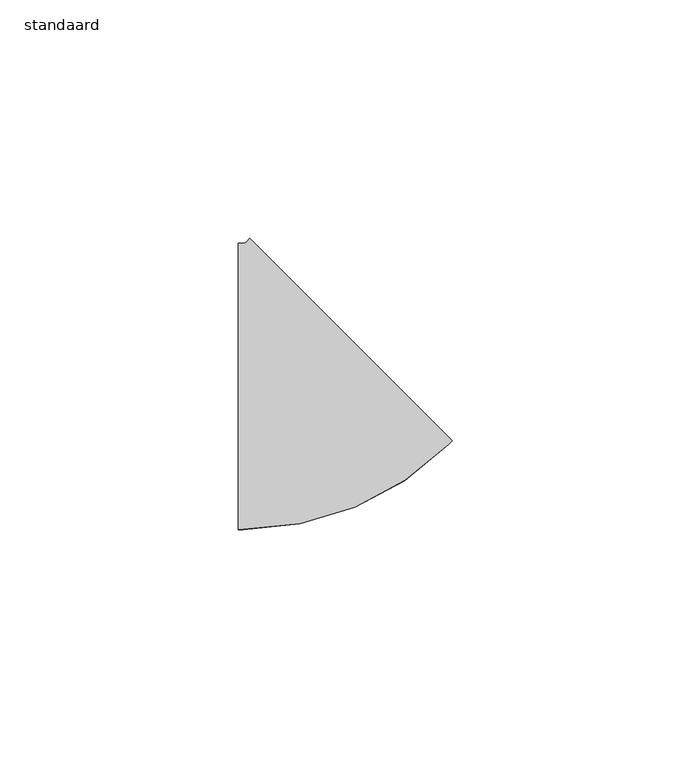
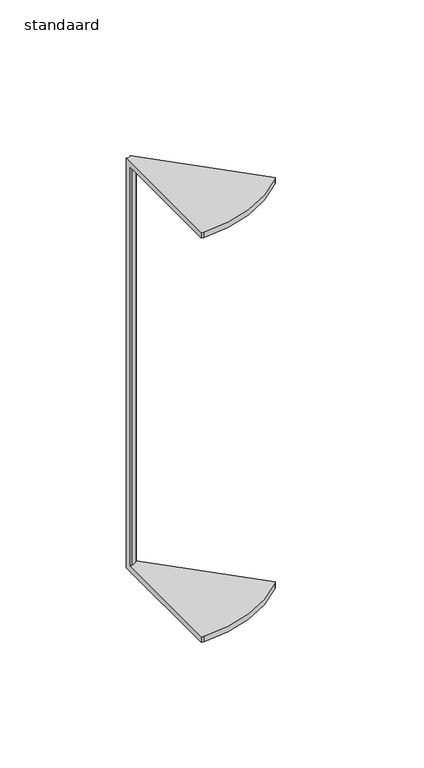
"""IFC4 building model written with IfcOpenShell, lengths in millimetres: cable carrier fitting geometry, AI_Raccord cdc_Coude desencdant : standaard."""

from ifc_helpers import new_model, si_unit, frame, origin, place, context, project, spatial, polyline, circle_curve, source, transform, mapped, element, save
from ifc_brep_helpers import plane_surface, cylinder_surface, revolved_surface, advanced_brep


def standaard_3ccb1d7a(model_context):
    return source(origin(), model_context, "Body", "AdvancedBrep", [
        advanced_brep(
        [(-13.8406204, -30.0, 100.0), (-13.8406204, 30.0, 100.0), (-13.8406204, 30.0, -100.0), (-13.8406204, -30.0, -100.0), (-13.8406204, -30.0, -97.46), (-13.8406204, 27.46, -97.46), (-13.8406204, 27.46, 97.46), (-13.8406204, -30.0, 97.46), (31.0, -11.4264069, 100.0), (31.0, -11.4264069, 97.46), (-9.6303557, 29.2039488, 97.46), (-9.6303557, 29.2039488, -97.46), (31.0, -11.4264069, -97.46), (31.0, -11.4264069, -100.0), (-11.4264069, 31.0, -100.0), (-11.4264069, 31.0, 100.0), (-12.8406204, -30.0, 100.0), (30.2928932, -12.1335137, 100.0), (-12.1335137, 30.2928932, 100.0), (-12.8406204, 30.0, 100.0), (-12.8406204, 30.0, -100.0), (-12.1335137, 30.2928932, -100.0), (30.2928932, -12.1335137, -100.0), (-12.8406204, -30.0, -100.0), (-12.8406204, -30.0, -97.46), (30.2928932, -12.1335137, -97.46), (-10.3374624, 28.496842, -97.46), (-12.8406204, 27.46, -97.46), (-12.8406204, 27.46, 97.46), (-10.3374624, 28.496842, 97.46), (30.2928932, -12.1335137, 97.46), (-12.8406204, -30.0, 97.46)],
        [
            (0, 1),
            (1, 2),
            (2, 3),
            (3, 4),
            (4, 5),
            (5, 6),
            (6, 7),
            (7, 0),
            (8, 9),
            (9, 10),
            (10, 11),
            (11, 12),
            (12, 13),
            (13, 14),
            (14, 15),
            (15, 8),
            (0, 16),
            (16, 17, circle_curve(frame((-12.8406204, 31.0, 100.0), z_axis=(0.0, 0.0, 1.0), x_axis=(0.0, -1.0, 0.0)), 61.0)),
            (17, 8),
            (15, 18),
            (18, 19, circle_curve(frame((-12.8406204, 31.0, 100.0), z_axis=(0.0, 0.0, -1.0), x_axis=(0.0, -1.0, 0.0)), 1.0)),
            (19, 1),
            (19, 20),
            (20, 2),
            (20, 21, circle_curve(frame((-12.8406204, 31.0, -100.0), z_axis=(0.0, 0.0, 1.0), x_axis=(0.0, -1.0, 0.0)), 1.0)),
            (21, 14),
            (13, 22),
            (22, 23, circle_curve(frame((-12.8406204, 31.0, -100.0), z_axis=(0.0, 0.0, -1.0), x_axis=(0.0, -1.0, 0.0)), 61.0)),
            (23, 3),
            (23, 24),
            (24, 4),
            (24, 25, circle_curve(frame((-12.8406204, 31.0, -97.46), z_axis=(0.0, 0.0, 1.0), x_axis=(0.0, -1.0, 0.0)), 61.0)),
            (25, 12),
            (11, 26),
            (26, 27, circle_curve(frame((-12.8406204, 31.0, -97.46), z_axis=(0.0, 0.0, -1.0), x_axis=(0.0, -1.0, 0.0)), 3.54)),
            (27, 5),
            (27, 28),
            (28, 6),
            (28, 29, circle_curve(frame((-12.8406204, 31.0, 97.46), z_axis=(0.0, 0.0, 1.0), x_axis=(0.0, -1.0, 0.0)), 3.54)),
            (29, 10),
            (9, 30),
            (30, 31, circle_curve(frame((-12.8406204, 31.0, 97.46), z_axis=(0.0, 0.0, -1.0), x_axis=(0.0, -1.0, 0.0)), 61.0)),
            (31, 7),
            (31, 16),
            (18, 21),
            (22, 25),
            (26, 29),
            (30, 17),
        ],
        [
            plane_surface(frame((-13.8406204, 0.0, 0.0), z_axis=(-1.0, -4.915201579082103e-12, 0.0), x_axis=(0.0, 0.0, 1.0))),
            plane_surface(frame((9.7867966, 9.7867966, 0.0), z_axis=(0.7071067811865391, 0.707106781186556, 0.0), x_axis=(0.0, 0.0, 1.0))),
            plane_surface(frame((-13.8406204, -30.0, 100.0), z_axis=(0.0, 0.0, 1.0), x_axis=(1.0, 4.9067416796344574e-12, 0.0))),
            plane_surface(frame((-13.8406204, 30.0, 100.0), z_axis=(-4.915201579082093e-12, 1.0, 0.0), x_axis=(1.0, 4.915201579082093e-12, 0.0))),
            plane_surface(frame((-13.8406204, 30.0, -100.0), z_axis=(0.0, 0.0, -1.0), x_axis=(1.0, 4.915201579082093e-12, 0.0))),
            plane_surface(frame((-13.8406204, -30.0, -100.0), z_axis=(4.9067416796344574e-12, -1.0, 0.0), x_axis=(1.0, 4.9067416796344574e-12, 0.0))),
            plane_surface(frame((-13.8406204, -30.0, -97.46), z_axis=(0.0, 0.0, 1.0), x_axis=(1.0, 4.9067416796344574e-12, 0.0))),
            plane_surface(frame((-13.8406204, 27.46, -97.46), z_axis=(4.915201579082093e-12, -1.0, 0.0), x_axis=(1.0, 4.915201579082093e-12, 0.0))),
            plane_surface(frame((-13.8406204, 27.46, 97.46), z_axis=(0.0, 0.0, -1.0), x_axis=(1.0, 4.915201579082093e-12, 0.0))),
            plane_surface(frame((-13.8406204, -30.0, 97.46), z_axis=(4.9067416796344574e-12, -1.0, 0.0), x_axis=(1.0, 4.9067416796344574e-12, 0.0))),
            revolved_surface(polyline([(-12.8406204, 30.0, 100.0), (-12.8406204, 30.0, -100.0)]), (-12.8406204, 31.0, 0.0), (0.0, 0.0, 1.0)),
            cylinder_surface(frame((-12.8406204, 31.0, 0.0), z_axis=(0.0, 0.0, 1.0), x_axis=(0.0, -1.0, 0.0)), 61.0),
            cylinder_surface(frame((-12.8406204, 31.0, 0.0), z_axis=(0.0, 0.0, 1.0), x_axis=(0.0, -1.0, 0.0)), 3.54),
            plane_surface(frame((-12.1335137, 30.2928932, 100.0), z_axis=(-0.7071067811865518, 0.7071067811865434, 0.0), x_axis=(0.7071067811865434, 0.7071067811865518, 0.0))),
            plane_surface(frame((30.2928932, -12.1335137, -100.0), z_axis=(0.7071067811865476, -0.7071067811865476, 0.0), x_axis=(0.7071067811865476, 0.7071067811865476, 0.0))),
            plane_surface(frame((-10.3374624, 28.496842, -97.46), z_axis=(0.7071067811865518, -0.7071067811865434, 0.0), x_axis=(0.7071067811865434, 0.7071067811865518, 0.0))),
            plane_surface(frame((30.2928932, -12.1335137, 97.46), z_axis=(0.7071067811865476, -0.7071067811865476, 0.0), x_axis=(0.7071067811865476, 0.7071067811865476, 0.0))),
        ],
        [
            (0, [[1, 2, 3, 4, 5, 6, 7, 8]]),
            (1, [[9, 10, 11, 12, 13, 14, 15, 16]]),
            (2, [[-1, 17, 18, 19, -16, 20, 21, 22]]),
            (3, [[-2, -22, 23, 24]]),
            (4, [[-3, -24, 25, 26, -14, 27, 28, 29]]),
            (5, [[-4, -29, 30, 31]]),
            (6, [[-5, -31, 32, 33, -12, 34, 35, 36]]),
            (7, [[-6, -36, 37, 38]]),
            (8, [[-7, -38, 39, 40, -10, 41, 42, 43]]),
            (9, [[-8, -43, 44, -17]]),
            (10, [[-25, -23, -21, 45]]),
            (11, [[-32, -30, -28, 46]]),
            (12, [[-39, -37, -35, 47]]),
            (11, [[-18, -44, -42, 48]]),
            (13, [[-45, -20, -15, -26]]),
            (14, [[-46, -27, -13, -33]]),
            (15, [[-47, -34, -11, -40]]),
            (16, [[-48, -41, -9, -19]]),
        ],
    ),
    ])


if __name__ == "__main__":
    model = new_model("IFC4")
    model_context = context("Model", 3, world=origin())
    ifc_project = project(units=[si_unit("LENGTHUNIT", "METRE", prefix="MILLI")], contexts=[model_context])
    site = spatial("IfcSite", under=ifc_project)
    building = spatial("IfcBuilding", under=site)
    placement = place(None, origin())
    standaard_shape = standaard_3ccb1d7a(model_context)
    element("IfcCableCarrierFitting", 1, ObjectType="AI_Raccord cdc_Coude desencdant : standaard", at=placement, inside=building, context=model_context, shape_type="MappedRepresentation", body=[
        mapped(standaard_shape, transform((0.0, 0.0, 0.0), x_axis=(1.0, 0.0, 0.0), y_axis=(0.0, 1.0, 0.0), z_axis=(0.0, 0.0, 1.0))),
    ])
    save(model, "model.ifc")
